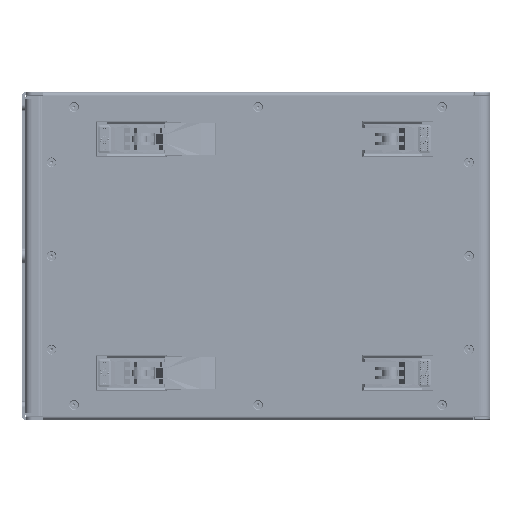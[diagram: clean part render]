
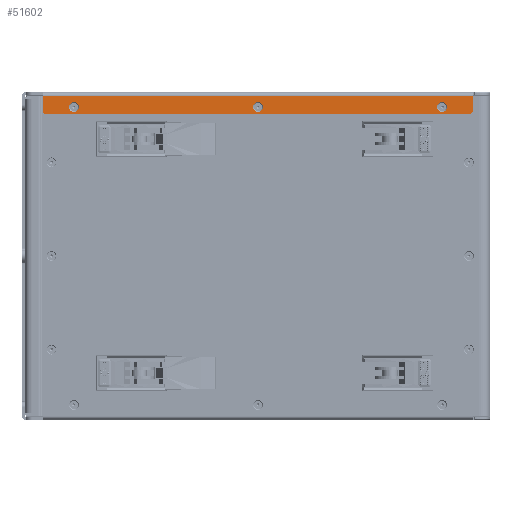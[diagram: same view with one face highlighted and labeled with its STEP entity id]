
A CAD part, front view. The second image highlights one B-rep face of the part: STEP entity #51602.
In plain terms, the highlighted planar face has unit normal (0, -1, 0).
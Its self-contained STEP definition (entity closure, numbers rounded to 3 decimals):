
#33026=DIRECTION('',(0.,0.,1.));
#33027=VECTOR('',#33026,9.5);
#33028=CARTESIAN_POINT('',(303.715,131.958,287.712));
#33029=LINE('',#33028,#33027);
#33043=DIRECTION('',(1.,0.,0.));
#33044=VECTOR('',#33043,275.7);
#33045=CARTESIAN_POINT('',(303.715,131.958,297.212));
#33046=LINE('',#33045,#33044);
#33065=DIRECTION('',(0.,0.,-1.));
#33066=VECTOR('',#33065,9.5);
#33067=CARTESIAN_POINT('',(579.415,131.958,297.212));
#33068=LINE('',#33067,#33066);
#33190=CARTESIAN_POINT('',(577.415,131.958,287.712));
#33191=DIRECTION('',(0.,-1.,0.));
#33192=DIRECTION('',(0.,0.,-1.));
#33193=AXIS2_PLACEMENT_3D('',#33190,#33191,#33192);
#33195=CARTESIAN_POINT('',(305.715,131.958,287.712));
#33196=DIRECTION('',(0.,-1.,0.));
#33197=DIRECTION('',(-1.,0.,0.));
#33198=AXIS2_PLACEMENT_3D('',#33195,#33196,#33197);
#33200=CARTESIAN_POINT('',(559.715,131.958,290.212));
#33201=DIRECTION('',(0.,1.,0.));
#33202=DIRECTION('',(0.,0.,-1.));
#33203=AXIS2_PLACEMENT_3D('',#33200,#33201,#33202);
#33205=CARTESIAN_POINT('',(559.715,131.958,290.212));
#33206=DIRECTION('',(0.,1.,0.));
#33207=DIRECTION('',(0.,0.,1.));
#33208=AXIS2_PLACEMENT_3D('',#33205,#33206,#33207);
#33210=CARTESIAN_POINT('',(323.715,131.958,290.212));
#33211=DIRECTION('',(0.,1.,0.));
#33212=DIRECTION('',(0.,0.,-1.));
#33213=AXIS2_PLACEMENT_3D('',#33210,#33211,#33212);
#33215=CARTESIAN_POINT('',(323.715,131.958,290.212));
#33216=DIRECTION('',(0.,1.,0.));
#33217=DIRECTION('',(0.,0.,1.));
#33218=AXIS2_PLACEMENT_3D('',#33215,#33216,#33217);
#33220=CARTESIAN_POINT('',(441.715,131.958,290.212));
#33221=DIRECTION('',(0.,1.,0.));
#33222=DIRECTION('',(0.,0.,-1.));
#33223=AXIS2_PLACEMENT_3D('',#33220,#33221,#33222);
#33225=CARTESIAN_POINT('',(441.715,131.958,290.212));
#33226=DIRECTION('',(0.,1.,0.));
#33227=DIRECTION('',(0.,0.,1.));
#33228=AXIS2_PLACEMENT_3D('',#33225,#33226,#33227);
#33238=DIRECTION('',(-1.,0.,0.));
#33239=VECTOR('',#33238,271.7);
#33240=CARTESIAN_POINT('',(577.415,131.958,285.712));
#33241=LINE('',#33240,#33239);
#42981=CARTESIAN_POINT('',(303.715,131.958,287.712));
#42983=VERTEX_POINT('',#42981);
#42987=CARTESIAN_POINT('',(441.715,131.958,293.362));
#42988=CARTESIAN_POINT('',(441.715,131.958,287.062));
#42989=VERTEX_POINT('',#42987);
#42990=VERTEX_POINT('',#42988);
#43003=CARTESIAN_POINT('',(559.715,131.958,293.362));
#43004=VERTEX_POINT('',#43003);
#43011=CARTESIAN_POINT('',(559.715,131.958,287.062));
#43012=VERTEX_POINT('',#43011);
#43013=CARTESIAN_POINT('',(577.415,131.958,285.712));
#43015=VERTEX_POINT('',#43013);
#43025=CARTESIAN_POINT('',(323.715,131.958,293.362));
#43027=VERTEX_POINT('',#43025);
#43035=CARTESIAN_POINT('',(579.415,131.958,287.712));
#43036=VERTEX_POINT('',#43035);
#43047=CARTESIAN_POINT('',(303.715,131.958,297.212));
#43048=VERTEX_POINT('',#43047);
#43051=CARTESIAN_POINT('',(323.715,131.958,287.062));
#43052=VERTEX_POINT('',#43051);
#43060=CARTESIAN_POINT('',(579.415,131.958,297.212));
#43062=VERTEX_POINT('',#43060);
#43083=CARTESIAN_POINT('',(305.715,131.958,285.712));
#43084=VERTEX_POINT('',#43083);
#51569=CARTESIAN_POINT('',(441.565,131.958,199.712));
#51570=DIRECTION('',(0.,1.,0.));
#51571=DIRECTION('',(0.,0.,-1.));
#51572=AXIS2_PLACEMENT_3D('',#51569,#51570,#51571);
#51573=PLANE('',#51572);
#51574=ORIENTED_EDGE('',*,*,#51378,.T.);
#51575=ORIENTED_EDGE('',*,*,#51399,.T.);
#51576=ORIENTED_EDGE('',*,*,#51421,.T.);
#51578=ORIENTED_EDGE('',*,*,#51577,.F.);
#51580=ORIENTED_EDGE('',*,*,#51579,.T.);
#51581=ORIENTED_EDGE('',*,*,#51560,.F.);
#51582=EDGE_LOOP('',(#51574,#51575,#51576,#51578,#51580,#51581));
#51583=FACE_OUTER_BOUND('',#51582,.F.);
#51585=ORIENTED_EDGE('',*,*,#51584,.F.);
#51587=ORIENTED_EDGE('',*,*,#51586,.F.);
#51588=EDGE_LOOP('',(#51585,#51587));
#51589=FACE_BOUND('',#51588,.F.);
#51591=ORIENTED_EDGE('',*,*,#51590,.F.);
#51593=ORIENTED_EDGE('',*,*,#51592,.F.);
#51594=EDGE_LOOP('',(#51591,#51593));
#51595=FACE_BOUND('',#51594,.F.);
#51597=ORIENTED_EDGE('',*,*,#51596,.F.);
#51599=ORIENTED_EDGE('',*,*,#51598,.F.);
#51600=EDGE_LOOP('',(#51597,#51599));
#51601=FACE_BOUND('',#51600,.F.);
#51602=ADVANCED_FACE('',(#51583,#51589,#51595,#51601),#51573,.F.);
#33194=CIRCLE('',#33193,2.);
#33199=CIRCLE('',#33198,2.);
#33204=CIRCLE('',#33203,3.15);
#33209=CIRCLE('',#33208,3.15);
#33214=CIRCLE('',#33213,3.15);
#33219=CIRCLE('',#33218,3.15);
#33224=CIRCLE('',#33223,3.15);
#33229=CIRCLE('',#33228,3.15);
#51378=EDGE_CURVE('',#42983,#43048,#33029,.T.);
#51399=EDGE_CURVE('',#43048,#43062,#33046,.T.);
#51421=EDGE_CURVE('',#43062,#43036,#33068,.T.);
#51560=EDGE_CURVE('',#42983,#43084,#33199,.T.);
#51577=EDGE_CURVE('',#43015,#43036,#33194,.T.);
#51579=EDGE_CURVE('',#43015,#43084,#33241,.T.);
#51584=EDGE_CURVE('',#43012,#43004,#33204,.T.);
#51586=EDGE_CURVE('',#43004,#43012,#33209,.T.);
#51590=EDGE_CURVE('',#43052,#43027,#33214,.T.);
#51592=EDGE_CURVE('',#43027,#43052,#33219,.T.);
#51596=EDGE_CURVE('',#42990,#42989,#33224,.T.);
#51598=EDGE_CURVE('',#42989,#42990,#33229,.T.);
